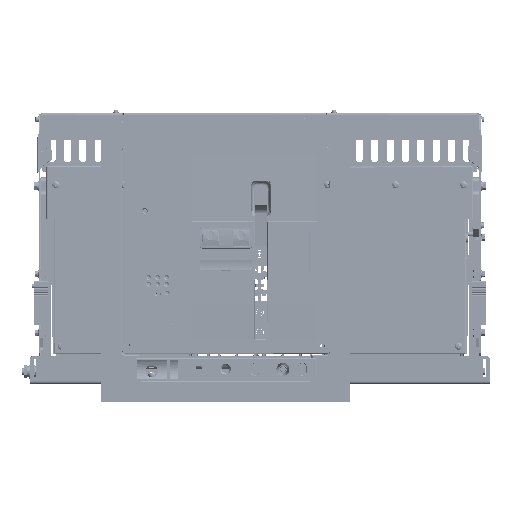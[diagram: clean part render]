
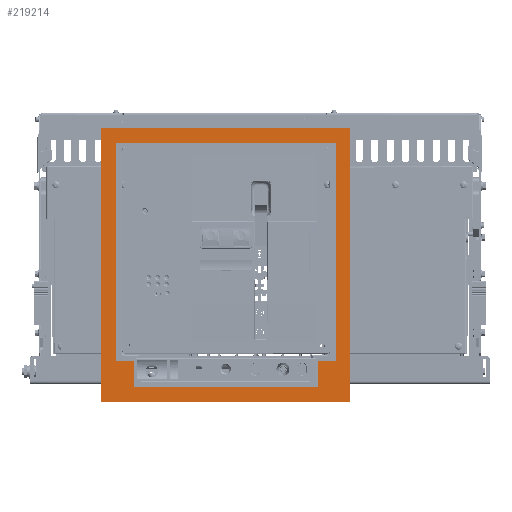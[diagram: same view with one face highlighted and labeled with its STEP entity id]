
A CAD part, front view. The second image highlights one B-rep face of the part: STEP entity #219214.
In plain terms, the highlighted planar face has unit normal (0, -1, 0).
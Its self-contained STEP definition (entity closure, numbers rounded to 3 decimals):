
#3627 = CARTESIAN_POINT ( 'NONE',  ( 133.849, 13.065, -494.116 ) ) ;
#3698 = CARTESIAN_POINT ( 'NONE',  ( 188.849, 13.064, -425.116 ) ) ;
#10419 = CARTESIAN_POINT ( 'NONE',  ( 161.349, 13.061, -57.616 ) ) ;
#11054 = CARTESIAN_POINT ( 'NONE',  ( 188.849, 13.064, -469.116 ) ) ;
#11620 = VERTEX_POINT ( 'NONE', #435060 ) ;
#18123 = CARTESIAN_POINT ( 'NONE',  ( 158.849, 13.061, -57.616 ) ) ;
#20773 = VECTOR ( 'NONE', #33517, 1000. ) ;
#22497 = EDGE_CURVE ( 'NONE', #269175, #321683, #304612, .T. ) ;
#27528 = VERTEX_POINT ( 'NONE', #351898 ) ;
#33517 = DIRECTION ( 'NONE',  ( -1., 0., 0. ) ) ;
#36707 = VECTOR ( 'NONE', #402951, 1000. ) ;
#46429 = DIRECTION ( 'NONE',  ( 0., 1., 0. ) ) ;
#46579 = DIRECTION ( 'NONE',  ( 1., 0., 0. ) ) ;
#51231 = AXIS2_PLACEMENT_3D ( 'NONE', #236119, #337674, #197821 ) ;
#56008 = CARTESIAN_POINT ( 'NONE',  ( 500.849, 13.064, -425.116 ) ) ;
#56856 = VECTOR ( 'NONE', #206566, 1000. ) ;
#58684 = EDGE_CURVE ( 'NONE', #420322, #358005, #91992, .T. ) ;
#69525 = DIRECTION ( 'NONE',  ( 0., 0., -1. ) ) ;
#72859 = ORIENTED_EDGE ( 'NONE', *, *, #437210, .F. ) ;
#85751 = ORIENTED_EDGE ( 'NONE', *, *, #152913, .T. ) ;
#87052 = EDGE_CURVE ( 'NONE', #358005, #160784, #437320, .T. ) ;
#89092 = VECTOR ( 'NONE', #302196, 1000. ) ;
#90229 = DIRECTION ( 'NONE',  ( 0., 0., -1. ) ) ;
#91992 = LINE ( 'NONE', #409827, #351849 ) ;
#96745 = CARTESIAN_POINT ( 'NONE',  ( 133.849, 13.065, -494.116 ) ) ;
#105639 = DIRECTION ( 'NONE',  ( 0., 0., 1. ) ) ;
#107569 = ORIENTED_EDGE ( 'NONE', *, *, #307475, .F. ) ;
#109695 = CARTESIAN_POINT ( 'NONE',  ( 555.849, 13.061, -30.116 ) ) ;
#110205 = AXIS2_PLACEMENT_3D ( 'NONE', #10419, #46429, #215549 ) ;
#110554 = LINE ( 'NONE', #385703, #36707 ) ;
#112024 = VERTEX_POINT ( 'NONE', #155071 ) ;
#116444 = LINE ( 'NONE', #249548, #398719 ) ;
#119905 = ORIENTED_EDGE ( 'NONE', *, *, #388569, .F. ) ;
#133055 = CARTESIAN_POINT ( 'NONE',  ( 188.849, 13.064, -469.116 ) ) ;
#137125 = DIRECTION ( 'NONE',  ( -1., 0., 0. ) ) ;
#143747 = DIRECTION ( 'NONE',  ( 1., 0., 0. ) ) ;
#145388 = DIRECTION ( 'NONE',  ( 0., 1., 0. ) ) ;
#147606 = CARTESIAN_POINT ( 'NONE',  ( 344.849, 13.063, -262.116 ) ) ;
#148415 = EDGE_CURVE ( 'NONE', #160784, #251477, #276869, .T. ) ;
#150285 = CARTESIAN_POINT ( 'NONE',  ( 133.849, 13.061, -30.116 ) ) ;
#152913 = EDGE_CURVE ( 'NONE', #181031, #267364, #368461, .T. ) ;
#155071 = CARTESIAN_POINT ( 'NONE',  ( 500.849, 13.064, -469.116 ) ) ;
#160784 = VERTEX_POINT ( 'NONE', #254488 ) ;
#163623 = CARTESIAN_POINT ( 'NONE',  ( 528.349, 13.061, -55.116 ) ) ;
#167636 = EDGE_LOOP ( 'NONE', ( #446482, #72859, #234129, #352306 ) ) ;
#175002 = LINE ( 'NONE', #3698, #56856 ) ;
#175452 = CARTESIAN_POINT ( 'NONE',  ( 528.349, 13.061, -55.116 ) ) ;
#177025 = FACE_OUTER_BOUND ( 'NONE', #167636, .T. ) ;
#181031 = VERTEX_POINT ( 'NONE', #163623 ) ;
#188377 = VECTOR ( 'NONE', #143747, 1000. ) ;
#191385 = FACE_BOUND ( 'NONE', #214232, .T. ) ;
#197821 = DIRECTION ( 'NONE',  ( 0., 0., 1. ) ) ;
#200417 = ORIENTED_EDGE ( 'NONE', *, *, #415483, .F. ) ;
#202593 = CARTESIAN_POINT ( 'NONE',  ( 555.849, 13.061, -30.116 ) ) ;
#206566 = DIRECTION ( 'NONE',  ( 0., 0., -1. ) ) ;
#214232 = EDGE_LOOP ( 'NONE', ( #293999, #333100, #342870, #257581, #119905, #289889, #259063, #200417, #85751, #107569 ) ) ;
#215549 = DIRECTION ( 'NONE',  ( -1., 0., 0. ) ) ;
#219214 = ADVANCED_FACE ( 'NONE', ( #191385, #177025 ), #424995, .F. ) ;
#234129 = ORIENTED_EDGE ( 'NONE', *, *, #148415, .F. ) ;
#236119 = CARTESIAN_POINT ( 'NONE',  ( 528.349, 13.061, -57.616 ) ) ;
#237085 = EDGE_CURVE ( 'NONE', #112024, #348020, #309948, .T. ) ;
#245277 = CARTESIAN_POINT ( 'NONE',  ( 555.849, 13.065, -494.116 ) ) ;
#249548 = CARTESIAN_POINT ( 'NONE',  ( 500.849, 13.064, -425.116 ) ) ;
#251477 = VERTEX_POINT ( 'NONE', #3627 ) ;
#254488 = CARTESIAN_POINT ( 'NONE',  ( 555.849, 13.065, -494.116 ) ) ;
#257581 = ORIENTED_EDGE ( 'NONE', *, *, #379493, .F. ) ;
#259063 = ORIENTED_EDGE ( 'NONE', *, *, #22497, .T. ) ;
#267364 = VERTEX_POINT ( 'NONE', #321030 ) ;
#269175 = VERTEX_POINT ( 'NONE', #369487 ) ;
#276056 = DIRECTION ( 'NONE',  ( 0., 0., 1. ) ) ;
#276827 = CARTESIAN_POINT ( 'NONE',  ( 158.849, 13.064, -425.116 ) ) ;
#276869 = LINE ( 'NONE', #245277, #396768 ) ;
#279048 = LINE ( 'NONE', #276827, #188377 ) ;
#289889 = ORIENTED_EDGE ( 'NONE', *, *, #445079, .F. ) ;
#293999 = ORIENTED_EDGE ( 'NONE', *, *, #324727, .F. ) ;
#302196 = DIRECTION ( 'NONE',  ( 1., 0., 0. ) ) ;
#304612 = CIRCLE ( 'NONE', #110205, 2.5 ) ;
#307475 = EDGE_CURVE ( 'NONE', #27528, #267364, #110554, .T. ) ;
#309948 = LINE ( 'NONE', #384315, #409549 ) ;
#321030 = CARTESIAN_POINT ( 'NONE',  ( 530.849, 13.061, -57.616 ) ) ;
#321243 = DIRECTION ( 'NONE',  ( -1., 0., 0. ) ) ;
#321683 = VERTEX_POINT ( 'NONE', #359943 ) ;
#324520 = VECTOR ( 'NONE', #69525, 1000. ) ;
#324727 = EDGE_CURVE ( 'NONE', #348020, #27528, #116444, .T. ) ;
#324984 = LINE ( 'NONE', #133055, #89092 ) ;
#333100 = ORIENTED_EDGE ( 'NONE', *, *, #237085, .F. ) ;
#337674 = DIRECTION ( 'NONE',  ( 0., 1., 0. ) ) ;
#337703 = DIRECTION ( 'NONE',  ( 1., 0., 0. ) ) ;
#338023 = LINE ( 'NONE', #96745, #361316 ) ;
#342870 = ORIENTED_EDGE ( 'NONE', *, *, #397259, .F. ) ;
#348020 = VERTEX_POINT ( 'NONE', #56008 ) ;
#351849 = VECTOR ( 'NONE', #337703, 1000. ) ;
#351898 = CARTESIAN_POINT ( 'NONE',  ( 530.849, 13.064, -425.116 ) ) ;
#352306 = ORIENTED_EDGE ( 'NONE', *, *, #87052, .F. ) ;
#358005 = VERTEX_POINT ( 'NONE', #109695 ) ;
#359943 = CARTESIAN_POINT ( 'NONE',  ( 161.349, 13.061, -55.116 ) ) ;
#361316 = VECTOR ( 'NONE', #105639, 1000. ) ;
#363803 = VERTEX_POINT ( 'NONE', #370707 ) ;
#363870 = VECTOR ( 'NONE', #90229, 1000. ) ;
#368461 = CIRCLE ( 'NONE', #51231, 2.5 ) ;
#369487 = CARTESIAN_POINT ( 'NONE',  ( 158.849, 13.061, -57.616 ) ) ;
#370707 = CARTESIAN_POINT ( 'NONE',  ( 188.849, 13.064, -425.116 ) ) ;
#379493 = EDGE_CURVE ( 'NONE', #363803, #402760, #175002, .T. ) ;
#380778 = LINE ( 'NONE', #175452, #20773 ) ;
#384315 = CARTESIAN_POINT ( 'NONE',  ( 500.849, 13.064, -469.116 ) ) ;
#385703 = CARTESIAN_POINT ( 'NONE',  ( 530.849, 13.064, -425.116 ) ) ;
#388569 = EDGE_CURVE ( 'NONE', #11620, #363803, #279048, .T. ) ;
#396768 = VECTOR ( 'NONE', #137125, 1000. ) ;
#397259 = EDGE_CURVE ( 'NONE', #402760, #112024, #324984, .T. ) ;
#398719 = VECTOR ( 'NONE', #46579, 1000. ) ;
#402760 = VERTEX_POINT ( 'NONE', #11054 ) ;
#402951 = DIRECTION ( 'NONE',  ( 0., 0., 1. ) ) ;
#409549 = VECTOR ( 'NONE', #276056, 1000. ) ;
#409827 = CARTESIAN_POINT ( 'NONE',  ( 133.849, 13.061, -30.116 ) ) ;
#415483 = EDGE_CURVE ( 'NONE', #181031, #321683, #380778, .T. ) ;
#420322 = VERTEX_POINT ( 'NONE', #150285 ) ;
#424995 = PLANE ( 'NONE',  #444611 ) ;
#430833 = LINE ( 'NONE', #18123, #363870 ) ;
#435060 = CARTESIAN_POINT ( 'NONE',  ( 158.849, 13.064, -425.116 ) ) ;
#437210 = EDGE_CURVE ( 'NONE', #251477, #420322, #338023, .T. ) ;
#437320 = LINE ( 'NONE', #202593, #324520 ) ;
#444611 = AXIS2_PLACEMENT_3D ( 'NONE', #147606, #145388, #321243 ) ;
#445079 = EDGE_CURVE ( 'NONE', #269175, #11620, #430833, .T. ) ;
#446482 = ORIENTED_EDGE ( 'NONE', *, *, #58684, .F. ) ;
